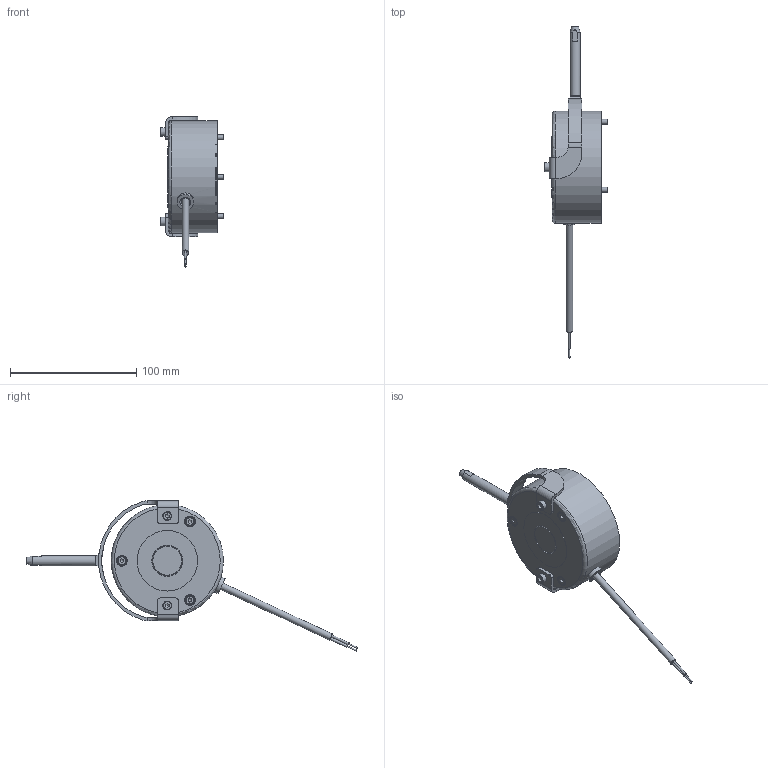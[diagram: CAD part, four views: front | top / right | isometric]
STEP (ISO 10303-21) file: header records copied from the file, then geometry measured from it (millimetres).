
FILE_DESCRIPTION(/* description */ (''),/* implementation_level */ '2;1');
FILE_NAME(/* name */ 'C:\SapWorkDir\Inventor\IP1\ConvertTempPath\5028605_IPT_000.ipt.stp',/* time_stamp */ '2020-09-10T10:52:15+02:00',/* author */ ('STRATE'),/* organization */ (''),/* preprocessor_version */ 'ST-DEVELOPER v17',/* originating_system */ 'Autodesk Inventor 2018',/* authorisation */ '');
FILE_SCHEMA (('AUTOMOTIVE_DESIGN { 1 0 10303 214 3 1 1 }'));
Length unit declared in the file: millimetre
Products named in the file (1): 5028605
Bounding box: 50.5 x 263.21 x 119.15 mm (x, y, z)
Volume: 221067.4 mm3; surface area: 63882.9 mm2
Topology: 3 solids, 3 shells, 442 faces, 1177 edges, 795 vertices
Faces by surface type: cylinder 222, plane 159, cone 42, torus 19
Full cylindrical faces by diameter (mm): 1 x2, 1.85 x2, 3 x1, 4 x5, 4.134 x1, 4.3 x2, 5 x2, 5.25 x2, 5.3 x1, 5.5 x2, 6.4 x3, 6.6 x1, 7 x7, 7.4 x2, 7.9 x3, 8 x1, 8.5 x2, 8.6 x3, 9 x2, 13.2 x1, 16 x1, 23.9 x1, 24 x2, 29 x1, 30.8 x1, 31 x1, 39.5 x2, 40 x2, 48 x1, 60 x1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
Entity records: 15206 total; most frequent: CARTESIAN_POINT 3489, ORIENTED_EDGE 2350, DIRECTION 2342, EDGE_CURVE 1175, AXIS2_PLACEMENT_3D 947, VERTEX_POINT 795, EDGE_LOOP 532, CIRCLE 504
